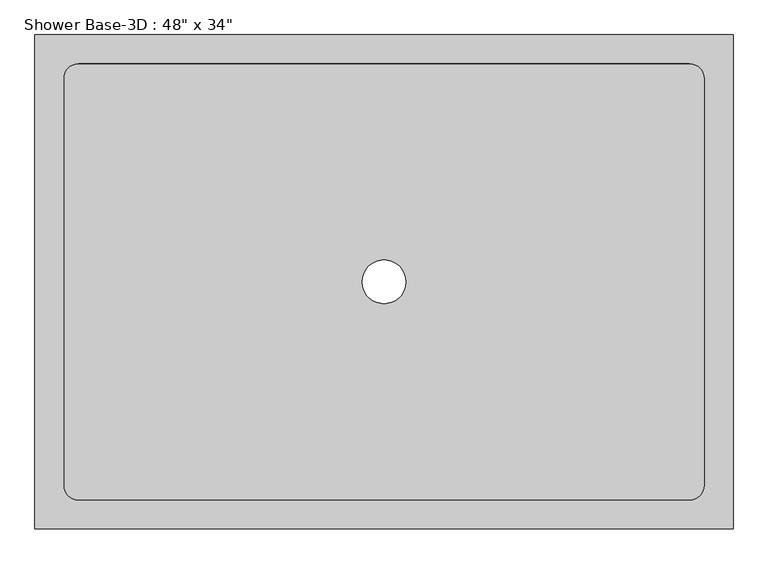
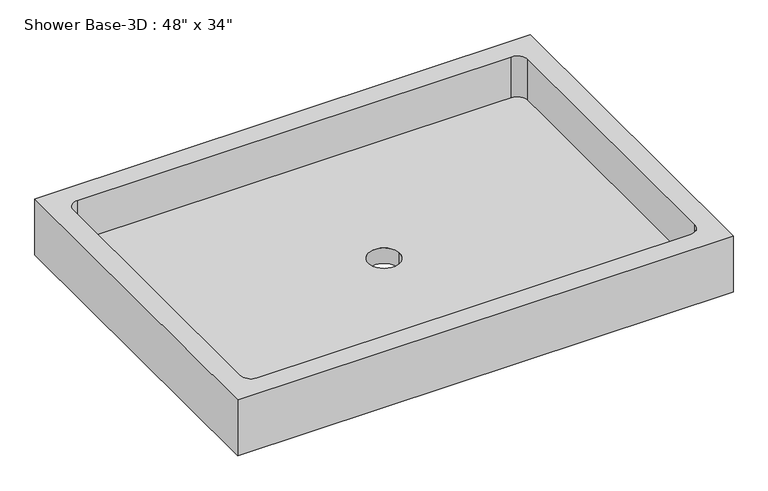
"""IFC4 building model written with IfcOpenShell, lengths in millimetres: flow terminal geometry."""

from ifc_helpers import new_model, si_unit, frame, origin, origin_with_axes, place, context, project, spatial, polyline, circle_curve, source, transform, mapped, element, save
from ifc_brep_helpers import plane_surface, revolved_surface, advanced_brep


def flow_terminal_5dba0d75(model_context):
    return source(origin(), model_context, "Body", "AdvancedBrep", [
        advanced_brep(
        [(609.6, 431.8, 146.05), (-609.6, 431.8, 146.05), (-609.6, -431.8, 146.05), (609.6, -431.8, 146.05), (558.8, -355.6, 146.05), (533.4, -381.0, 146.05), (-533.4, -381.0, 146.05), (-558.8, -355.6, 146.05), (-558.8, 355.6, 146.05), (-533.4, 381.0, 146.05), (533.4, 381.0, 146.05), (558.8, 355.6, 146.05), (609.6, 431.8, 0.0), (609.6, -431.8, 0.0), (-609.6, -431.8, 0.0), (-609.6, 431.8, 0.0), (-38.1, 0.0, 0.0), (38.1, 0.0, 0.0), (533.4, -381.0, 39.8652193), (558.8, -355.6, 39.8652193), (558.8, 355.6, 39.8652193), (533.4, 381.0, 39.8652193), (-533.4, 381.0, 39.8652193), (-558.8, 355.6, 39.8652193), (-558.8, -355.6, 39.8652193), (-533.4, -381.0, 39.8652193), (38.1, 0.0, 39.8652193), (-38.1, 0.0, 39.8652193)],
        [
            (0, 1),
            (1, 2),
            (2, 3),
            (3, 0),
            (4, 5, circle_curve(frame((533.4, -355.6, 146.05), z_axis=(0.0, 0.0, -1.0), x_axis=(1.0, 0.0, 0.0)), 25.4)),
            (5, 6),
            (6, 7, circle_curve(frame((-533.4, -355.6, 146.05), z_axis=(0.0, 0.0, -1.0), x_axis=(1.0, 0.0, 0.0)), 25.4)),
            (7, 8),
            (8, 9, circle_curve(frame((-533.4, 355.6, 146.05), z_axis=(0.0, 0.0, -1.0), x_axis=(1.0, 0.0, 0.0)), 25.4)),
            (9, 10),
            (10, 11, circle_curve(frame((533.4, 355.6, 146.05), z_axis=(0.0, 0.0, -1.0), x_axis=(1.0, 0.0, 0.0)), 25.4)),
            (11, 4),
            (12, 13),
            (13, 14),
            (14, 15),
            (15, 12),
            (16, 17, circle_curve(origin_with_axes(), 38.1)),
            (17, 16, circle_curve(origin_with_axes(), 38.1)),
            (0, 12),
            (15, 1),
            (14, 2),
            (13, 3),
            (18, 19, circle_curve(frame((533.4, -355.6, 39.8652193), z_axis=(0.0, 0.0, 1.0), x_axis=(1.0, 0.0, 0.0)), 25.4)),
            (19, 20),
            (20, 21, circle_curve(frame((533.4, 355.6, 39.8652193), z_axis=(0.0, 0.0, 1.0), x_axis=(1.0, 0.0, 0.0)), 25.4)),
            (21, 22),
            (22, 23, circle_curve(frame((-533.4, 355.6, 39.8652193), z_axis=(0.0, 0.0, 1.0), x_axis=(1.0, 0.0, 0.0)), 25.4)),
            (23, 24),
            (24, 25, circle_curve(frame((-533.4, -355.6, 39.8652193), z_axis=(0.0, 0.0, 1.0), x_axis=(1.0, 0.0, 0.0)), 25.4)),
            (25, 18),
            (26, 27, circle_curve(frame((0.0, 0.0, 39.8652193), z_axis=(0.0, 0.0, -1.0), x_axis=(1.0, 0.0, 0.0)), 38.1)),
            (27, 26, circle_curve(frame((0.0, 0.0, 39.8652193), z_axis=(0.0, 0.0, -1.0), x_axis=(1.0, 0.0, 0.0)), 38.1)),
            (18, 5),
            (4, 19),
            (11, 20),
            (10, 21),
            (9, 22),
            (8, 23),
            (7, 24),
            (6, 25),
            (16, 27),
            (26, 17),
        ],
        [
            plane_surface(frame((-609.6, 431.8, 146.05), z_axis=(0.0, 0.0, 1.0), x_axis=(-1.0, 0.0, 0.0))),
            plane_surface(frame((-609.6, 431.8, 0.0), z_axis=(0.0, 0.0, -1.0), x_axis=(1.0, 0.0, 0.0))),
            plane_surface(frame((609.6, 431.8, 146.05), z_axis=(0.0, 1.0, 0.0), x_axis=(0.0, 0.0, -1.0))),
            plane_surface(frame((-609.6, 431.8, 146.05), z_axis=(-1.0, 0.0, 0.0), x_axis=(0.0, 0.0, -1.0))),
            plane_surface(frame((-609.6, -431.8, 146.05), z_axis=(0.0, -1.0, 0.0), x_axis=(0.0, 0.0, -1.0))),
            plane_surface(frame((609.6, -431.8, 146.05), z_axis=(1.0, 0.0, 0.0), x_axis=(0.0, 0.0, -1.0))),
            plane_surface(frame((558.8, -355.6, 39.8652193), z_axis=(0.0, 0.0, 1.0), x_axis=(0.0, -1.0, 0.0))),
            revolved_surface(polyline([(558.8, -355.6, 146.05), (558.8, -355.6, 39.8652193)]), (533.4, -355.6, 39.8652193), (0.0, 0.0, 1.0)),
            plane_surface(frame((558.8, -355.6, 146.05), z_axis=(-1.0, 0.0, 0.0), x_axis=(0.0, 0.0, -1.0))),
            revolved_surface(polyline([(558.8, 355.6, 146.05), (558.8, 355.6, 39.8652193)]), (533.4, 355.6, 39.8652193), (0.0, 0.0, 1.0)),
            plane_surface(frame((533.4, 381.0, 146.05), z_axis=(0.0, -1.0, 0.0), x_axis=(0.0, 0.0, -1.0))),
            revolved_surface(polyline([(-508.0, 355.6, 146.05), (-508.0, 355.6, 39.8652193)]), (-533.4, 355.6, 39.8652193), (0.0, 0.0, 1.0)),
            plane_surface(frame((-558.8, 355.6, 146.05), z_axis=(1.0, 0.0, 0.0), x_axis=(0.0, 0.0, -1.0))),
            revolved_surface(polyline([(-508.0, -355.6, 146.05), (-508.0, -355.6, 39.8652193)]), (-533.4, -355.6, 39.8652193), (0.0, 0.0, 1.0)),
            plane_surface(frame((-533.4, -381.0, 146.05), z_axis=(0.0, 1.0, 0.0), x_axis=(0.0, 0.0, -1.0))),
            revolved_surface(polyline([(38.1, 0.0, 39.8652193), (38.1, 0.0, 0.0)]), (0.0, 0.0, 0.0), (0.0, 0.0, 1.0)),
        ],
        [
            (0, [[1, 2, 3, 4], [5, 6, 7, 8, 9, 10, 11, 12]]),
            (1, [[13, 14, 15, 16], [17, 18]]),
            (2, [[-1, 19, -16, 20]]),
            (3, [[-2, -20, -15, 21]]),
            (4, [[-3, -21, -14, 22]]),
            (5, [[-4, -22, -13, -19]]),
            (6, [[23, 24, 25, 26, 27, 28, 29, 30], [31, 32]]),
            (7, [[-23, 33, -5, 34]]),
            (8, [[-24, -34, -12, 35]]),
            (9, [[-25, -35, -11, 36]]),
            (10, [[-26, -36, -10, 37]]),
            (11, [[-27, -37, -9, 38]]),
            (12, [[-28, -38, -8, 39]]),
            (13, [[-29, -39, -7, 40]]),
            (14, [[-30, -40, -6, -33]]),
            (15, [[41, -31, 42, -17]]),
            (15, [[-41, -18, -42, -32]]),
        ],
    ),
    ])


if __name__ == "__main__":
    model = new_model("IFC4")
    model_context = context("Model", 3, world=origin())
    ifc_project = project(units=[si_unit("LENGTHUNIT", "METRE", prefix="MILLI")], contexts=[model_context])
    site = spatial("IfcSite", under=ifc_project)
    building = spatial("IfcBuilding", under=site)
    placement = place(None, origin())
    flow_terminal_shape = flow_terminal_5dba0d75(model_context)
    element("IfcFlowTerminal", 1, ObjectType="Shower Base-3D : 48\" x 34\"", at=placement, inside=building, context=model_context, shape_type="MappedRepresentation", body=[
        mapped(flow_terminal_shape, transform((0.0, 0.0, 0.0), x_axis=(1.0, 0.0, 0.0), y_axis=(0.0, 1.0, 0.0), z_axis=(0.0, 0.0, 1.0))),
    ])
    save(model, "model.ifc")
